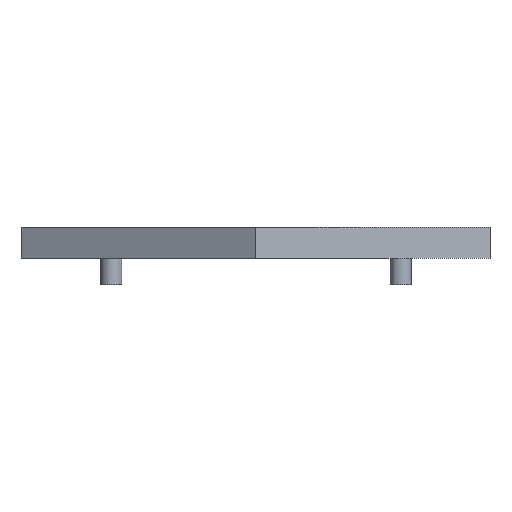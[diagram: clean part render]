
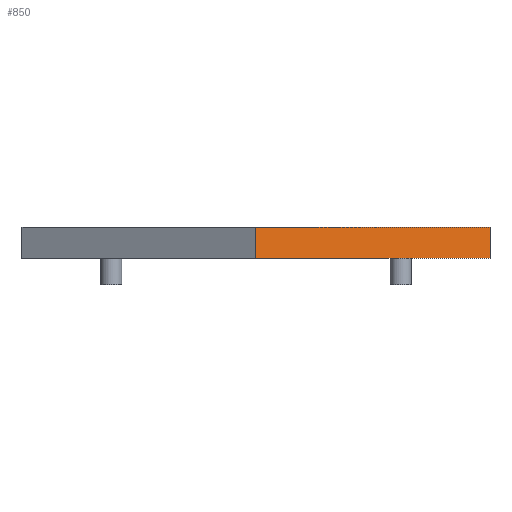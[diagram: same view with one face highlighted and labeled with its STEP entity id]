
A CAD part, front view. The second image highlights one B-rep face of the part: STEP entity #850.
In plain terms, the highlighted planar face has unit normal (0.5, -0.866, 0).
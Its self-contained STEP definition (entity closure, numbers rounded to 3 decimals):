
#44 = PLANE('',#45);
#45 = AXIS2_PLACEMENT_3D('',#46,#47,#48);
#46 = CARTESIAN_POINT('',(24.,-13.856,24.));
#47 = DIRECTION('',(-1.,0.,0.));
#48 = DIRECTION('',(0.,1.,0.));
#72 = PLANE('',#73);
#73 = AXIS2_PLACEMENT_3D('',#74,#75,#76);
#74 = CARTESIAN_POINT('',(0.,0.,27.2)
  );
#75 = DIRECTION('',(0.,0.,1.));
#76 = DIRECTION('',(1.,0.,-0.));
#126 = PLANE('',#127);
#127 = AXIS2_PLACEMENT_3D('',#128,#129,#130);
#128 = CARTESIAN_POINT('',(0.,0.,24.)
  );
#129 = DIRECTION('',(0.,0.,1.));
#130 = DIRECTION('',(1.,0.,-0.));
#141 = EDGE_CURVE('',#142,#144,#146,.T.);
#142 = VERTEX_POINT('',#143);
#143 = CARTESIAN_POINT('',(24.,-13.856,24.));
#144 = VERTEX_POINT('',#145);
#145 = CARTESIAN_POINT('',(24.,-13.856,27.2));
#146 = SURFACE_CURVE('',#147,(#151,#158),.PCURVE_S1.);
#147 = LINE('',#148,#149);
#148 = CARTESIAN_POINT('',(24.,-13.856,24.));
#149 = VECTOR('',#150,1.);
#150 = DIRECTION('',(0.,0.,1.));
#151 = PCURVE('',#44,#152);
#152 = DEFINITIONAL_REPRESENTATION('',(#153),#157);
#153 = LINE('',#154,#155);
#154 = CARTESIAN_POINT('',(0.,0.));
#155 = VECTOR('',#156,1.);
#156 = DIRECTION('',(0.,-1.));
#157 = ( GEOMETRIC_REPRESENTATION_CONTEXT(2) 
PARAMETRIC_REPRESENTATION_CONTEXT() REPRESENTATION_CONTEXT('2D SPACE',''
  ) );
#158 = PCURVE('',#159,#164);
#159 = PLANE('',#160);
#160 = AXIS2_PLACEMENT_3D('',#161,#162,#163);
#161 = CARTESIAN_POINT('',(0.,-27.713,24.));
#162 = DIRECTION('',(-0.5,0.866,0.));
#163 = DIRECTION('',(0.866,0.5,0.));
#164 = DEFINITIONAL_REPRESENTATION('',(#165),#169);
#165 = LINE('',#166,#167);
#166 = CARTESIAN_POINT('',(27.713,0.));
#167 = VECTOR('',#168,1.);
#168 = DIRECTION('',(0.,-1.));
#169 = ( GEOMETRIC_REPRESENTATION_CONTEXT(2) 
PARAMETRIC_REPRESENTATION_CONTEXT() REPRESENTATION_CONTEXT('2D SPACE',''
  ) );
#319 = VERTEX_POINT('',#320);
#320 = CARTESIAN_POINT('',(0.,-27.713,24.));
#334 = PLANE('',#335);
#335 = AXIS2_PLACEMENT_3D('',#336,#337,#338);
#336 = CARTESIAN_POINT('',(-24.,-13.856,24.));
#337 = DIRECTION('',(0.5,0.866,-0.));
#338 = DIRECTION('',(0.866,-0.5,0.));
#346 = EDGE_CURVE('',#319,#142,#347,.T.);
#347 = SURFACE_CURVE('',#348,(#352,#359),.PCURVE_S1.);
#348 = LINE('',#349,#350);
#349 = CARTESIAN_POINT('',(0.,-27.713,24.));
#350 = VECTOR('',#351,1.);
#351 = DIRECTION('',(0.866,0.5,0.));
#352 = PCURVE('',#126,#353);
#353 = DEFINITIONAL_REPRESENTATION('',(#354),#358);
#354 = LINE('',#355,#356);
#355 = CARTESIAN_POINT('',(0.,-27.713));
#356 = VECTOR('',#357,1.);
#357 = DIRECTION('',(0.866,0.5));
#358 = ( GEOMETRIC_REPRESENTATION_CONTEXT(2) 
PARAMETRIC_REPRESENTATION_CONTEXT() REPRESENTATION_CONTEXT('2D SPACE',''
  ) );
#359 = PCURVE('',#159,#360);
#360 = DEFINITIONAL_REPRESENTATION('',(#361),#365);
#361 = LINE('',#362,#363);
#362 = CARTESIAN_POINT('',(0.,0.));
#363 = VECTOR('',#364,1.);
#364 = DIRECTION('',(1.,0.));
#365 = ( GEOMETRIC_REPRESENTATION_CONTEXT(2) 
PARAMETRIC_REPRESENTATION_CONTEXT() REPRESENTATION_CONTEXT('2D SPACE',''
  ) );
#679 = VERTEX_POINT('',#680);
#680 = CARTESIAN_POINT('',(0.,-27.713,27.2));
#701 = EDGE_CURVE('',#679,#144,#702,.T.);
#702 = SURFACE_CURVE('',#703,(#707,#714),.PCURVE_S1.);
#703 = LINE('',#704,#705);
#704 = CARTESIAN_POINT('',(0.,-27.713,27.2));
#705 = VECTOR('',#706,1.);
#706 = DIRECTION('',(0.866,0.5,0.));
#707 = PCURVE('',#72,#708);
#708 = DEFINITIONAL_REPRESENTATION('',(#709),#713);
#709 = LINE('',#710,#711);
#710 = CARTESIAN_POINT('',(0.,-27.713));
#711 = VECTOR('',#712,1.);
#712 = DIRECTION('',(0.866,0.5));
#713 = ( GEOMETRIC_REPRESENTATION_CONTEXT(2) 
PARAMETRIC_REPRESENTATION_CONTEXT() REPRESENTATION_CONTEXT('2D SPACE',''
  ) );
#714 = PCURVE('',#159,#715);
#715 = DEFINITIONAL_REPRESENTATION('',(#716),#720);
#716 = LINE('',#717,#718);
#717 = CARTESIAN_POINT('',(0.,-3.2));
#718 = VECTOR('',#719,1.);
#719 = DIRECTION('',(1.,0.));
#720 = ( GEOMETRIC_REPRESENTATION_CONTEXT(2) 
PARAMETRIC_REPRESENTATION_CONTEXT() REPRESENTATION_CONTEXT('2D SPACE',''
  ) );
#850 = ADVANCED_FACE('',(#851),#159,.F.);
#851 = FACE_BOUND('',#852,.F.);
#852 = EDGE_LOOP('',(#853,#874,#875,#876));
#853 = ORIENTED_EDGE('',*,*,#854,.T.);
#854 = EDGE_CURVE('',#319,#679,#855,.T.);
#855 = SURFACE_CURVE('',#856,(#860,#867),.PCURVE_S1.);
#856 = LINE('',#857,#858);
#857 = CARTESIAN_POINT('',(0.,-27.713,24.));
#858 = VECTOR('',#859,1.);
#859 = DIRECTION('',(0.,0.,1.));
#860 = PCURVE('',#159,#861);
#861 = DEFINITIONAL_REPRESENTATION('',(#862),#866);
#862 = LINE('',#863,#864);
#863 = CARTESIAN_POINT('',(0.,0.));
#864 = VECTOR('',#865,1.);
#865 = DIRECTION('',(0.,-1.));
#866 = ( GEOMETRIC_REPRESENTATION_CONTEXT(2) 
PARAMETRIC_REPRESENTATION_CONTEXT() REPRESENTATION_CONTEXT('2D SPACE',''
  ) );
#867 = PCURVE('',#334,#868);
#868 = DEFINITIONAL_REPRESENTATION('',(#869),#873);
#869 = LINE('',#870,#871);
#870 = CARTESIAN_POINT('',(27.713,0.));
#871 = VECTOR('',#872,1.);
#872 = DIRECTION('',(0.,-1.));
#873 = ( GEOMETRIC_REPRESENTATION_CONTEXT(2) 
PARAMETRIC_REPRESENTATION_CONTEXT() REPRESENTATION_CONTEXT('2D SPACE',''
  ) );
#874 = ORIENTED_EDGE('',*,*,#701,.T.);
#875 = ORIENTED_EDGE('',*,*,#141,.F.);
#876 = ORIENTED_EDGE('',*,*,#346,.F.);
